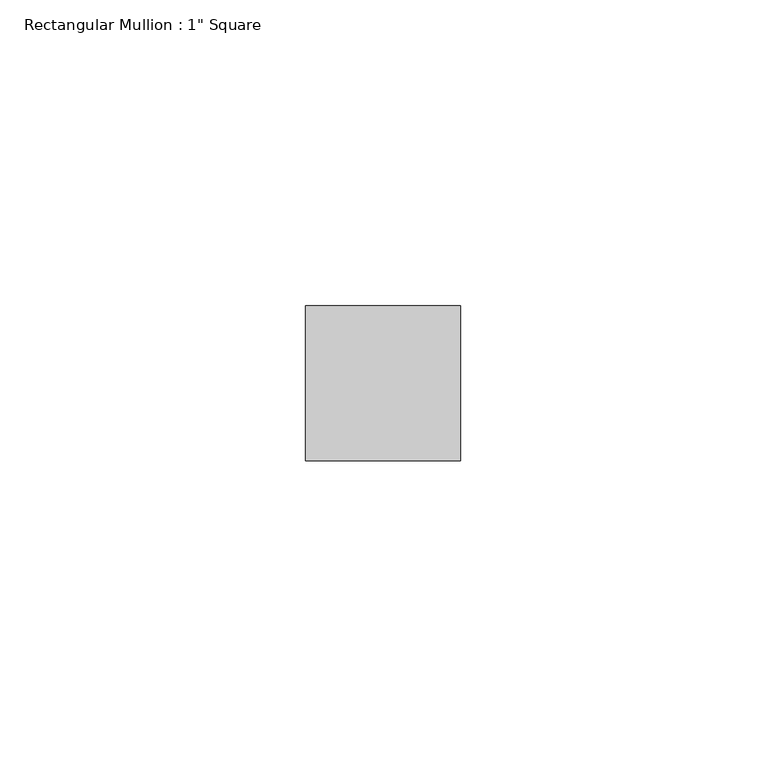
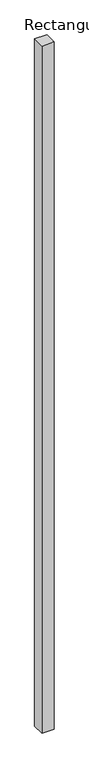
"""IFC4 building model written with IfcOpenShell, lengths in millimetres: member geometry."""

from ifc_helpers import new_model, si_unit, frame, origin, place, context, project, spatial, polyline, outline, extrude, source, transform, mapped, element, save


def member_4c2c1438(model_context):
    return source(origin(), model_context, "Body", "SweptSolid", [
        extrude(outline(polyline([(12.7, 12.7), (12.7, -12.7), (-12.7, -12.7), (-12.7, 12.7), (12.7, 12.7)])), frame((0.0, 0.0, -1495.2626108), z_axis=(0.0, 0.0, 1.0), x_axis=(1.0, 0.0, 0.0)), (0.0, 0.0, 1.0), 1495.2626108),
    ])


if __name__ == "__main__":
    model = new_model("IFC4")
    model_context = context("Model", 3, world=origin())
    ifc_project = project(units=[si_unit("LENGTHUNIT", "METRE", prefix="MILLI")], contexts=[model_context])
    site = spatial("IfcSite", under=ifc_project)
    building = spatial("IfcBuilding", under=site)
    placement = place(None, origin())
    member_shape = member_4c2c1438(model_context)
    element("IfcMember", 1, ObjectType="Rectangular Mullion : 1\" Square", at=placement, inside=building, context=model_context, shape_type="MappedRepresentation", body=[
        mapped(member_shape, transform((0.0, 0.0, 0.0), x_axis=(1.0, 0.0, 0.0), y_axis=(0.0, 1.0, 0.0), z_axis=(0.0, 0.0, 1.0))),
    ])
    save(model, "model.ifc")
